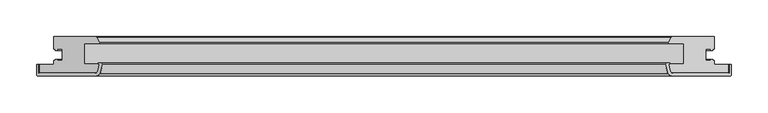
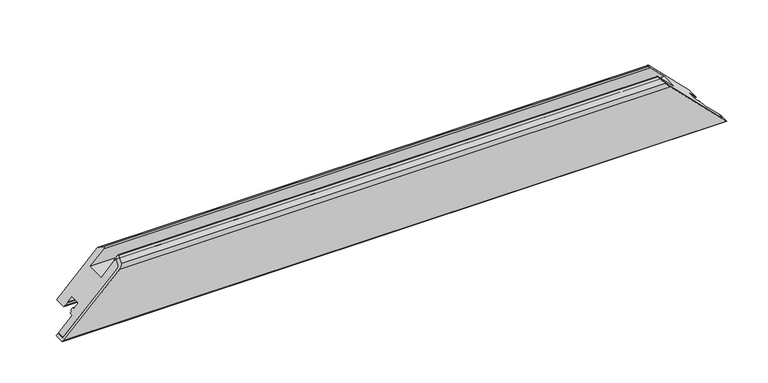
"""IFC4 building model written with IfcOpenShell, lengths in millimetres: proxy geometry, Weiku - Montante - Folha 02.2.01.018 : Weiku - Montante - Folha 02.2.01.018."""

from ifc_helpers import new_model, si_unit, frame, origin, place, context, project, spatial, polyline, ellipse_curve, source, transform, mapped, element, save
from ifc_brep_helpers import plane_surface, cylinder_surface, revolved_surface, advanced_brep


def generic_models_551276b7(model_context):
    return source(origin(), model_context, "Body", "AdvancedBrep", [
        advanced_brep(
        [(470.25, -50.0, 0.0), (-470.25, -50.0, 0.0), (-393.2497332, -50.0, 77.0002668), (393.2497332, -50.0, 77.0002668), (-390.3519557, -47.7764571, 79.8980443), (390.3519557, -47.7764571, 79.8980443), (-387.7670371, -38.1294095, 82.4829629), (387.7670371, -38.1294095, 82.4829629), (-388.25, -37.5, 82.0), (388.25, -37.5, 82.0), (-389.1060102, -37.5, 81.1439898), (389.1060102, -37.5, 81.1439898), (-389.1060102, -36.5, 81.1439898), (389.1060102, -36.5, 81.1439898), (-384.4925588, -36.5, 85.7574412), (384.4925588, -36.5, 85.7574412), (-383.5266329, -37.758819, 86.7233671), (383.5266329, -37.758819, 86.7233671), (-386.8854501, -50.2940952, 83.3645499), (386.8854501, -50.2940952, 83.3645499), (-391.7150792, -54.0, 78.5349208), (391.7150792, -54.0, 78.5349208), (-471.25, -54.0, -1.0), (471.25, -54.0, -1.0), (-473.25, -52.0, -3.0), (473.25, -52.0, -3.0), (-473.25, -38.5, -3.0), (473.25, -38.5, -3.0), (-470.25, -38.5, 0.0), (470.25, -38.5, 0.0)],
        [
            (0, 1),
            (1, 2),
            (2, 3),
            (3, 0),
            (2, 4, ellipse_curve(frame((-393.2497332, -47.0, 77.0002668), z_axis=(-0.7071067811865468, 0.0, 0.7071067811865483), x_axis=(0.7071067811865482, 0.0, 0.7071067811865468)), 4.2426407, 3.0)),
            (4, 5),
            (5, 3, ellipse_curve(frame((393.2497332, -47.0, 77.0002668), z_axis=(0.707106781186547, 0.0, 0.7071067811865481), x_axis=(0.7071067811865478, 0.0, -0.707106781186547)), 4.2426407, 3.0)),
            (4, 6),
            (6, 7),
            (7, 5),
            (6, 8, ellipse_curve(frame((-388.25, -38.0, 82.0), z_axis=(-0.7071067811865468, 0.0, 0.7071067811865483), x_axis=(0.7071067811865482, 0.0, 0.7071067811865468)), 0.7071068, 0.5)),
            (8, 9),
            (9, 7, ellipse_curve(frame((388.25, -38.0, 82.0), z_axis=(0.707106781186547, 0.0, 0.7071067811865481), x_axis=(0.7071067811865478, 0.0, -0.707106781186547)), 0.7071068, 0.5)),
            (8, 10),
            (10, 11),
            (11, 9),
            (10, 12, ellipse_curve(frame((-389.1060102, -37.0, 81.1439898), z_axis=(0.7071067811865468, 0.0, -0.7071067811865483), x_axis=(-0.7071067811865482, 0.0, -0.7071067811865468)), 0.7071068, 0.5)),
            (12, 13),
            (13, 11, ellipse_curve(frame((389.1060102, -37.0, 81.1439898), z_axis=(-0.707106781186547, 0.0, -0.7071067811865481), x_axis=(-0.7071067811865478, 0.0, 0.707106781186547)), 0.7071068, 0.5)),
            (12, 14),
            (14, 15),
            (15, 13),
            (14, 16, ellipse_curve(frame((-384.4925588, -37.5, 85.7574412), z_axis=(0.7071067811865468, 0.0, -0.7071067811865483), x_axis=(-0.7071067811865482, 0.0, -0.7071067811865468)), 1.4142136, 1.0)),
            (16, 17),
            (17, 15, ellipse_curve(frame((384.4925588, -37.5, 85.7574412), z_axis=(-0.707106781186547, 0.0, -0.7071067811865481), x_axis=(-0.7071067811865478, 0.0, 0.707106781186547)), 1.4142136, 1.0)),
            (16, 18),
            (18, 19),
            (19, 17),
            (18, 20, ellipse_curve(frame((-391.7150792, -49.0, 78.5349208), z_axis=(0.7071067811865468, 0.0, -0.7071067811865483), x_axis=(-0.7071067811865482, 0.0, -0.7071067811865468)), 7.0710678, 5.0)),
            (20, 21),
            (21, 19, ellipse_curve(frame((391.7150792, -49.0, 78.5349208), z_axis=(-0.707106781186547, 0.0, -0.7071067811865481), x_axis=(-0.7071067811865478, 0.0, 0.707106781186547)), 7.0710678, 5.0)),
            (20, 22),
            (22, 23),
            (23, 21),
            (22, 24, ellipse_curve(frame((-471.25, -52.0, -1.0), z_axis=(0.7071067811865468, 0.0, -0.7071067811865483), x_axis=(-0.7071067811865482, 0.0, -0.7071067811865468)), 2.8284271, 2.0)),
            (24, 25),
            (25, 23, ellipse_curve(frame((471.25, -52.0, -1.0), z_axis=(-0.707106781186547, 0.0, -0.7071067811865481), x_axis=(-0.7071067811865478, 0.0, 0.707106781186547)), 2.8284271, 2.0)),
            (24, 26),
            (26, 27),
            (27, 25),
            (26, 28),
            (28, 29),
            (29, 27),
            (28, 1),
            (0, 29),
        ],
        [
            plane_surface(frame((-490.25, -50.0, 0.0), z_axis=(0.0, 1.0, 0.0), x_axis=(1.0, 0.0, 0.0))),
            revolved_surface(polyline([(396.24973320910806, -50.0, 77.0002668), (-396.24973320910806, -50.0, 77.0002668)]), (-490.25, -47.0, 77.0002668), (1.0, 0.0, 0.0)),
            plane_surface(frame((-490.25, -47.7764571, 79.8980443), z_axis=(0.0, 0.2588190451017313, -0.9659258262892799), x_axis=(1.0, 0.0, 0.0))),
            revolved_surface(polyline([(388.75000001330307, -38.5, 82.0), (-388.7500000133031, -38.5, 82.0)]), (-490.25, -38.0, 82.0), (1.0, 0.0, 0.0)),
            plane_surface(frame((-490.25, -37.5, 82.0), z_axis=(0.0, -1.0, 0.0), x_axis=(1.0, 0.0, 0.0))),
            cylinder_surface(frame((-490.25, -37.0, 81.1439898), z_axis=(-1.0, 0.0, 0.0), x_axis=(0.0, -1.0, 0.0)), 0.5),
            plane_surface(frame((-490.25, -36.5, 81.1439898), z_axis=(0.0, 1.0, 0.0), x_axis=(1.0, 0.0, 0.0))),
            cylinder_surface(frame((-490.25, -37.5, 85.7574412), z_axis=(-1.0, 0.0, 0.0), x_axis=(0.0, -1.0, 0.0)), 1.0),
            plane_surface(frame((-490.25, -37.758819, 86.7233671), z_axis=(0.0, -0.25881904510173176, 0.9659258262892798), x_axis=(1.0, 0.0, 0.0))),
            cylinder_surface(frame((-490.25, -49.0, 78.5349208), z_axis=(-1.0, 0.0, 0.0), x_axis=(0.0, -1.0, 0.0)), 5.0),
            plane_surface(frame((-490.25, -54.0, 78.5349208), z_axis=(0.0, -1.0, 0.0), x_axis=(1.0, 0.0, 0.0))),
            cylinder_surface(frame((-490.25, -52.0, -1.0), z_axis=(-1.0, 0.0, 0.0), x_axis=(0.0, -1.0, 0.0)), 2.0),
            plane_surface(frame((-490.25, -52.0, -3.0), z_axis=(0.0, 0.0, -1.0), x_axis=(1.0, 0.0, 0.0))),
            plane_surface(frame((-490.25, -38.5, -3.0), z_axis=(0.0, 1.0, 0.0), x_axis=(1.0, 0.0, 0.0))),
            plane_surface(frame((-490.25, -38.5, 0.0), z_axis=(0.0, 0.0, 1.0), x_axis=(1.0, 0.0, 0.0))),
            plane_surface(frame((380.25, 0.0, 90.0), z_axis=(0.707106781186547, 0.0, 0.7071067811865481), x_axis=(0.0, -1.0, 0.0))),
            plane_surface(frame((-498.5342712, 0.0, -28.2842712), z_axis=(-0.7071067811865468, 0.0, 0.7071067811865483), x_axis=(0.0, -1.0, 0.0))),
        ],
        [
            (0, [[1, 2, 3, 4]]),
            (1, [[-3, 5, 6, 7]]),
            (2, [[-6, 8, 9, 10]]),
            (3, [[-9, 11, 12, 13]]),
            (4, [[-12, 14, 15, 16]]),
            (5, [[-15, 17, 18, 19]]),
            (6, [[-18, 20, 21, 22]]),
            (7, [[-21, 23, 24, 25]]),
            (8, [[-24, 26, 27, 28]]),
            (9, [[-27, 29, 30, 31]]),
            (10, [[-30, 32, 33, 34]]),
            (11, [[-33, 35, 36, 37]]),
            (12, [[-36, 38, 39, 40]]),
            (13, [[-39, 41, 42, 43]]),
            (14, [[-42, 44, -1, 45]]),
            (15, [[-7, -10, -13, -16, -19, -22, -25, -28, -31, -34, -37, -40, -43, -45, -4]]),
            (16, [[-44, -41, -38, -35, -32, -29, -26, -23, -20, -17, -14, -11, -8, -5, -2]]),
        ],
    ),
        advanced_brep(
        [(470.25, -50.0, 0.0), (393.2497332, -50.0, 77.0002668), (-393.2497332, -50.0, 77.0002668), (-470.25, -50.0, 0.0), (-470.25, -38.5, 0.0), (470.25, -38.5, 0.0), (-392.2372264, 0.0, 78.0127736), (392.2372264, 0.0, 78.0127736), (450.25, 0.0, 20.0), (-450.25, 0.0, 20.0), (-390.3519557, -47.7764571, 79.8980443), (-387.7670371, -38.1294095, 82.4829629), (-388.25, -37.5, 82.0), (-408.75, -37.5, 61.5), (-408.75, -9.5, 61.5), (-388.9634285, -9.5, 81.2865715), (-387.8012796, -7.617411, 82.4487204), (-391.3432657, -0.5518546, 78.9067343), (-450.25, -16.9, 20.0), (-448.05, -16.9, 22.2), (-448.05, -18.9, 22.2), (-445.25, -18.9, 25.0), (-445.25, -16.9, 25.0), (-438.75, -16.9, 31.5), (-438.75, -33.1, 31.5), (-445.25, -33.1, 25.0), (-445.25, -31.1, 25.0), (-448.05, -31.1, 22.2), (-448.05, -33.1, 22.2), (-450.25, -33.1, 20.0), (-450.25, -38.5, 20.0), (450.25, -38.5, 20.0), (450.25, -33.1, 20.0), (448.05, -33.1, 22.2), (448.05, -31.1, 22.2), (445.25, -31.1, 25.0), (445.25, -33.1, 25.0), (438.75, -33.1, 31.5), (438.75, -16.9, 31.5), (445.25, -16.9, 25.0), (445.25, -18.9, 25.0), (448.05, -18.9, 22.2), (448.05, -16.9, 22.2), (450.25, -16.9, 20.0), (391.3432657, -0.5518546, 78.9067343), (387.8012796, -7.617411, 82.4487204), (388.9634285, -9.5, 81.2865715), (408.75, -9.5, 61.5), (408.75, -37.5, 61.5), (388.25, -37.5, 82.0), (387.7670371, -38.1294095, 82.4829629), (390.3519557, -47.7764571, 79.8980443)],
        [
            (0, 1),
            (1, 2),
            (2, 3),
            (3, 0),
            (3, 4),
            (4, 5),
            (5, 0),
            (6, 7),
            (7, 8),
            (8, 9),
            (9, 6),
            (2, 10, ellipse_curve(frame((-393.2497332, -47.0, 77.0002668), z_axis=(-0.7071067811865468, 0.0, 0.7071067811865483), x_axis=(-0.7071067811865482, 0.0, -0.7071067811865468)), 4.2426407, 3.0)),
            (10, 11),
            (11, 12, ellipse_curve(frame((-388.25, -38.0, 82.0), z_axis=(-0.7071067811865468, 0.0, 0.7071067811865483), x_axis=(-0.7071067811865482, 0.0, -0.7071067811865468)), 0.7071068, 0.5)),
            (12, 13),
            (13, 14),
            (14, 15),
            (15, 16, ellipse_curve(frame((-388.9634285, -8.2, 81.2865715), z_axis=(-0.7071067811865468, 0.0, 0.7071067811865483), x_axis=(-0.7071067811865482, 0.0, -0.7071067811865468)), 1.8384776, 1.3)),
            (16, 17),
            (17, 6, ellipse_curve(frame((-392.2372264, -1.0, 78.0127736), z_axis=(-0.7071067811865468, 0.0, 0.7071067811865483), x_axis=(-0.7071067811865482, 0.0, -0.7071067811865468)), 1.4142136, 1.0)),
            (9, 18),
            (18, 19),
            (19, 20),
            (20, 21),
            (21, 22),
            (22, 23),
            (23, 24),
            (24, 25),
            (25, 26),
            (26, 27),
            (27, 28),
            (28, 29),
            (29, 30),
            (30, 4),
            (5, 31),
            (31, 32),
            (32, 33),
            (33, 34),
            (34, 35),
            (35, 36),
            (36, 37),
            (37, 38),
            (38, 39),
            (39, 40),
            (40, 41),
            (41, 42),
            (42, 43),
            (43, 8),
            (7, 44, ellipse_curve(frame((392.2372264, -1.0, 78.0127736), z_axis=(0.707106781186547, 0.0, 0.7071067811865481), x_axis=(-0.7071067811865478, 0.0, 0.707106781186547)), 1.4142136, 1.0)),
            (44, 45),
            (45, 46, ellipse_curve(frame((388.9634285, -8.2, 81.2865715), z_axis=(0.707106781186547, 0.0, 0.7071067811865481), x_axis=(-0.7071067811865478, 0.0, 0.707106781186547)), 1.8384776, 1.3)),
            (46, 47),
            (47, 48),
            (48, 49),
            (49, 50, ellipse_curve(frame((388.25, -38.0, 82.0), z_axis=(0.707106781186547, 0.0, 0.7071067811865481), x_axis=(-0.7071067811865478, 0.0, 0.707106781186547)), 0.7071068, 0.5)),
            (50, 51),
            (51, 1, ellipse_curve(frame((393.2497332, -47.0, 77.0002668), z_axis=(0.707106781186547, 0.0, 0.7071067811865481), x_axis=(-0.7071067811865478, 0.0, 0.707106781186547)), 4.2426407, 3.0)),
            (17, 44),
            (16, 45),
            (15, 46),
            (14, 47),
            (13, 48),
            (12, 49),
            (11, 50),
            (10, 51),
            (30, 31),
            (29, 32),
            (28, 33),
            (27, 34),
            (26, 35),
            (25, 36),
            (24, 37),
            (23, 38),
            (22, 39),
            (21, 40),
            (20, 41),
            (19, 42),
            (18, 43),
        ],
        [
            plane_surface(frame((-470.25, -50.0, 77.0002668), z_axis=(0.0, -1.0, 0.0), x_axis=(1.0, 0.0, 0.0))),
            plane_surface(frame((-470.25, -50.0, 0.0), z_axis=(0.0, 0.0, -1.0), x_axis=(1.0, 0.0, 0.0))),
            plane_surface(frame((-470.25, 0.0, 20.0), z_axis=(0.0, 1.0, 0.0), x_axis=(1.0, 0.0, 0.0))),
            plane_surface(frame((-498.5342712, 0.0, -28.2842712), z_axis=(-0.7071067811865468, 0.0, 0.7071067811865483), x_axis=(0.0, -1.0, 0.0))),
            plane_surface(frame((380.25, 0.0, 90.0), z_axis=(0.707106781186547, 0.0, 0.7071067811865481), x_axis=(0.0, -1.0, 0.0))),
            cylinder_surface(frame((-470.25, -1.0, 78.0127736), z_axis=(-1.0, 0.0, 0.0), x_axis=(0.0, -1.0, 0.0)), 1.0),
            plane_surface(frame((-470.25, -0.5518546, 78.9067343), z_axis=(0.0, 0.4481453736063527, 0.8939606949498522), x_axis=(1.0, 0.0, 0.0))),
            cylinder_surface(frame((-470.25, -8.2, 81.2865715), z_axis=(-1.0, 0.0, 0.0), x_axis=(0.0, -1.0, 0.0)), 1.3),
            plane_surface(frame((-470.25, -9.5, 81.2865715), z_axis=(0.0, -1.0, 0.0), x_axis=(1.0, 0.0, 0.0))),
            plane_surface(frame((-470.25, -9.5, 61.5), z_axis=(0.0, 0.0, 1.0), x_axis=(1.0, 0.0, 0.0))),
            plane_surface(frame((-470.25, -37.5, 61.5), z_axis=(0.0, 1.0, 0.0), x_axis=(1.0, 0.0, 0.0))),
            cylinder_surface(frame((-470.25, -38.0, 82.0), z_axis=(-1.0, 0.0, 0.0), x_axis=(0.0, -1.0, 0.0)), 0.5),
            plane_surface(frame((-470.25, -38.1294095, 82.4829629), z_axis=(0.0, -0.2588190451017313, 0.9659258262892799), x_axis=(1.0, 0.0, 0.0))),
            cylinder_surface(frame((-470.25, -47.0, 77.0002668), z_axis=(-1.0, 0.0, 0.0), x_axis=(0.0, -1.0, 0.0)), 3.0),
            plane_surface(frame((-470.25, -38.5, 0.0), z_axis=(0.0, 1.0, 0.0), x_axis=(1.0, 0.0, 0.0))),
            plane_surface(frame((-470.25, -38.5, 20.0), z_axis=(0.0, 0.0, -1.0), x_axis=(1.0, 0.0, 0.0))),
            plane_surface(frame((-470.25, -33.1, 20.0), z_axis=(0.0, 1.0, 0.0), x_axis=(1.0, 0.0, 0.0))),
            plane_surface(frame((-470.25, -33.1, 22.2), z_axis=(0.0, 0.0, -1.0), x_axis=(1.0, 0.0, 0.0))),
            plane_surface(frame((-470.25, -31.1, 22.2), z_axis=(0.0, 1.0, 0.0), x_axis=(1.0, 0.0, 0.0))),
            plane_surface(frame((-470.25, -31.1, 25.0), z_axis=(0.0, 0.0, 1.0), x_axis=(1.0, 0.0, 0.0))),
            plane_surface(frame((-470.25, -33.1, 25.0), z_axis=(0.0, 1.0, 0.0), x_axis=(1.0, 0.0, 0.0))),
            plane_surface(frame((-470.25, -33.1, 31.5), z_axis=(0.0, 0.0, -1.0), x_axis=(1.0, 0.0, 0.0))),
            plane_surface(frame((-470.25, -16.9, 31.5), z_axis=(0.0, -1.0, 0.0), x_axis=(1.0, 0.0, 0.0))),
            plane_surface(frame((-470.25, -16.9, 25.0), z_axis=(0.0, 0.0, 1.0), x_axis=(1.0, 0.0, 0.0))),
            plane_surface(frame((-470.25, -18.9, 25.0), z_axis=(0.0, -1.0, 0.0), x_axis=(1.0, 0.0, 0.0))),
            plane_surface(frame((-470.25, -18.9, 22.2), z_axis=(0.0, 0.0, -1.0), x_axis=(1.0, 0.0, 0.0))),
            plane_surface(frame((-470.25, -16.9, 22.2), z_axis=(0.0, -1.0, 0.0), x_axis=(1.0, 0.0, 0.0))),
            plane_surface(frame((-470.25, -16.9, 20.0), z_axis=(0.0, 0.0, -1.0), x_axis=(1.0, 0.0, 0.0))),
        ],
        [
            (0, [[1, 2, 3, 4]]),
            (1, [[5, 6, 7, -4]]),
            (2, [[8, 9, 10, 11]]),
            (3, [[12, 13, 14, 15, 16, 17, 18, 19, 20, -11, 21, 22, 23, 24, 25, 26, 27, 28, 29, 30, 31, 32, 33, 34, -5, -3]]),
            (4, [[-7, 35, 36, 37, 38, 39, 40, 41, 42, 43, 44, 45, 46, 47, 48, -9, 49, 50, 51, 52, 53, 54, 55, 56, 57, -1]]),
            (5, [[58, -49, -8, -20]]),
            (6, [[59, -50, -58, -19]]),
            (7, [[60, -51, -59, -18]]),
            (8, [[61, -52, -60, -17]]),
            (9, [[62, -53, -61, -16]]),
            (10, [[63, -54, -62, -15]]),
            (11, [[64, -55, -63, -14]]),
            (12, [[65, -56, -64, -13]]),
            (13, [[-2, -57, -65, -12]]),
            (14, [[-34, 66, -35, -6]]),
            (15, [[67, -36, -66, -33]]),
            (16, [[68, -37, -67, -32]]),
            (17, [[69, -38, -68, -31]]),
            (18, [[70, -39, -69, -30]]),
            (19, [[71, -40, -70, -29]]),
            (20, [[72, -41, -71, -28]]),
            (21, [[73, -42, -72, -27]]),
            (22, [[74, -43, -73, -26]]),
            (23, [[75, -44, -74, -25]]),
            (24, [[76, -45, -75, -24]]),
            (25, [[77, -46, -76, -23]]),
            (26, [[78, -47, -77, -22]]),
            (27, [[-10, -48, -78, -21]]),
        ],
    ),
    ])


if __name__ == "__main__":
    model = new_model("IFC4")
    model_context = context("Model", 3, world=origin())
    ifc_project = project(units=[si_unit("LENGTHUNIT", "METRE", prefix="MILLI")], contexts=[model_context])
    site = spatial("IfcSite", under=ifc_project)
    building = spatial("IfcBuilding", under=site)
    placement = place(None, origin())
    generic_models_shape = generic_models_551276b7(model_context)
    element("IfcBuildingElementProxy", 1, Name="Weiku - Montante - Folha 02.2.01.018 : Weiku - Montante - Folha 02.2.01.018", ObjectType="Weiku - Montante - Folha 02.2.01.018 : Weiku - Montante - Folha 02.2.01.018", at=placement, inside=building, context=model_context, shape_type="MappedRepresentation", body=[
        mapped(generic_models_shape, transform((0.0, 0.0, 0.0), x_axis=(1.0, 0.0, 0.0), y_axis=(0.0, 1.0, 0.0), z_axis=(0.0, 0.0, 1.0))),
    ])
    save(model, "model.ifc")
